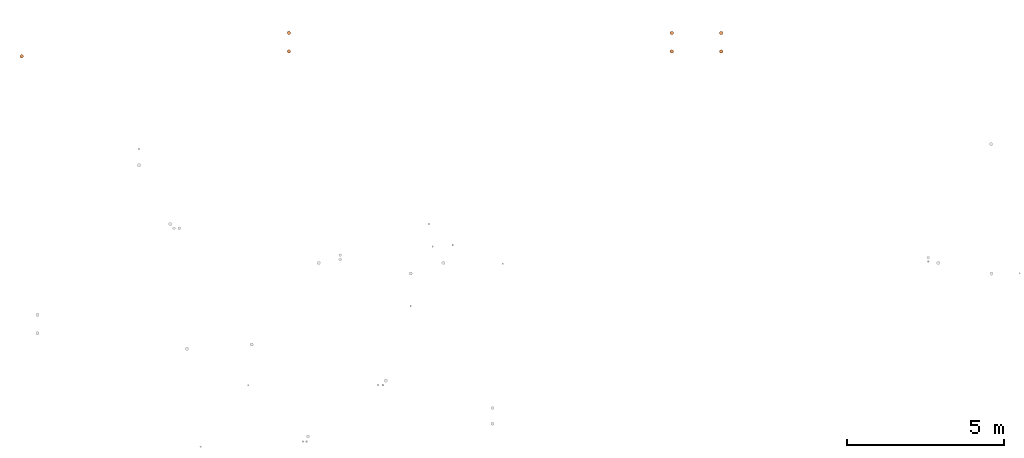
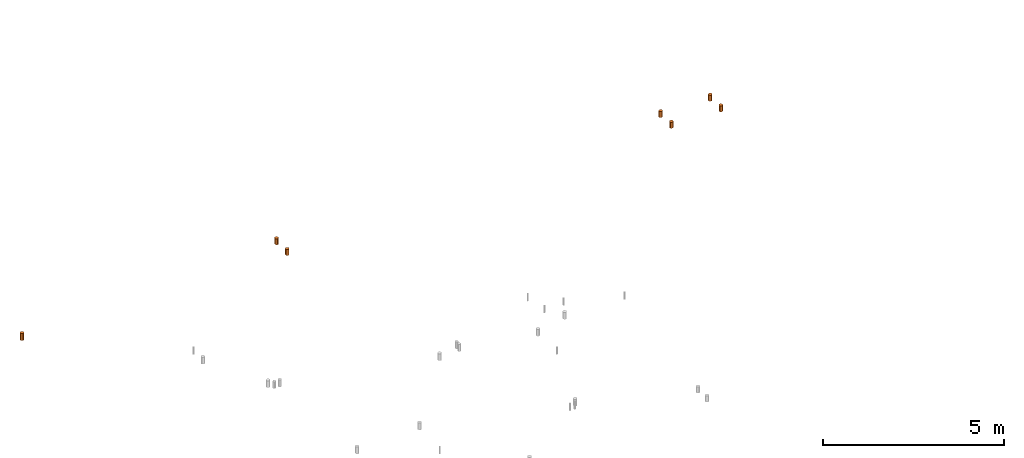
# One storey, part 7 of 16: 7 proxies.
"""IFC2X3 building model written with IfcOpenShell, lengths in centimetres."""

from ifc_helpers import new_model, entity, si_unit, converted_unit, derived_unit, direction, frame, origin, origin_2d_with_axis, place, context, subcontext, project, spatial, circle, extrude, source, transform, mapped, material, type_object, type_shapes, element, save


model = new_model("IFC2X3")

# Units and contexts
model_context = context("Model", 3, precision=0.001, world=origin(), true_north=direction((6.12303176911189e-17, 1.0)))
body_context = subcontext(model_context, "Body", "Model", "MODEL_VIEW")
ifc_project = project(units=[si_unit("LENGTHUNIT", "METRE", prefix="CENTI"), si_unit("AREAUNIT", "SQUARE_METRE"), si_unit("VOLUMEUNIT", "CUBIC_METRE"), converted_unit("PLANEANGLEUNIT", "DEGREE", entity("IfcRatioMeasure", 0.0174532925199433), si_unit("PLANEANGLEUNIT", "RADIAN"), dimensions=[0, 0, 0, 0, 0, 0, 0]), si_unit("MASSUNIT", "GRAM", prefix="KILO"), derived_unit("MASSDENSITYUNIT", [(si_unit("MASSUNIT", "GRAM", prefix="KILO"), 1), (si_unit("LENGTHUNIT", "METRE"), -3)]), si_unit("TIMEUNIT", "SECOND"), si_unit("FREQUENCYUNIT", "HERTZ"), si_unit("THERMODYNAMICTEMPERATUREUNIT", "DEGREE_CELSIUS"), derived_unit("THERMALTRANSMITTANCEUNIT", [(si_unit("MASSUNIT", "GRAM", prefix="KILO"), 1), (si_unit("THERMODYNAMICTEMPERATUREUNIT", "KELVIN"), -1), (si_unit("TIMEUNIT", "SECOND"), -3)]), derived_unit("VOLUMETRICFLOWRATEUNIT", [(si_unit("LENGTHUNIT", "METRE"), 3), (si_unit("TIMEUNIT", "SECOND"), -1)]), si_unit("ELECTRICCURRENTUNIT", "AMPERE"), si_unit("ELECTRICVOLTAGEUNIT", "VOLT"), si_unit("POWERUNIT", "WATT"), si_unit("FORCEUNIT", "NEWTON"), si_unit("ILLUMINANCEUNIT", "LUX"), si_unit("LUMINOUSFLUXUNIT", "LUMEN"), si_unit("LUMINOUSINTENSITYUNIT", "CANDELA"), derived_unit("USERDEFINED", [(si_unit("MASSUNIT", "GRAM", prefix="KILO"), -1), (si_unit("LENGTHUNIT", "METRE"), -2), (si_unit("TIMEUNIT", "SECOND"), 3), (si_unit("LUMINOUSFLUXUNIT", "LUMEN"), 1)]), derived_unit("LINEARVELOCITYUNIT", [(si_unit("LENGTHUNIT", "METRE"), 1), (si_unit("TIMEUNIT", "SECOND"), -1)]), si_unit("PRESSUREUNIT", "PASCAL"), derived_unit("USERDEFINED", [(si_unit("LENGTHUNIT", "METRE"), -2), (si_unit("MASSUNIT", "GRAM", prefix="KILO"), 1), (si_unit("TIMEUNIT", "SECOND"), -2)])], contexts=[model_context])

# Site, building, storey
site_placement = place(None, origin())
site = spatial("IfcSite", under=ifc_project, at=site_placement, Name="Default", CompositionType="ELEMENT")
building_placement = place(site_placement, origin())
building = spatial("IfcBuilding", under=site, at=building_placement, Name="CAGE 03", CompositionType="ELEMENT")
storey_placement = place(building_placement, frame((0.0, 0.0, 65.0)))
storey = spatial("IfcBuildingStorey", under=building, at=storey_placement, Name="Ac RDC", CompositionType="ELEMENT", Elevation=64.9999999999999)

# Proxies
ifc_material = material(Name="BBGO_Résa")
building_element_proxy_type_1 = type_object("IfcBuildingElementProxyType", Name="Ø110", PredefinedType="NOTDEFINED", material=ifc_material)
shared_shape_1 = source(origin(), body_context, "Body", "SweptSolid", [
    extrude(circle(Radius=5.5, at=origin_2d_with_axis()), frame((3212.70611734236, 5159.70027840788, 317.0)), (0.0, 0.0, 1.0), 22.9999999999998),
])
type_shapes(building_element_proxy_type_1, [shared_shape_1])
proxy_1_placement = place(storey_placement, frame((0.0, 0.0, -65.0)))
element("IfcBuildingElementProxy", 1, at=proxy_1_placement, inside=storey, type_object=building_element_proxy_type_1, material=ifc_material, Name="BBGO-Résa circ dalle:Ø110", ObjectType="Ø110", context=body_context, shape_type="MappedRepresentation", body=[
    mapped(shared_shape_1, transform((0.0, 0.0, 0.0), scale=1.0)),
])
building_element_proxy_type_2 = type_object("IfcBuildingElementProxyType", Name="Ø110", PredefinedType="NOTDEFINED", material=ifc_material)
shared_shape_2 = source(origin(), body_context, "Body", "SweptSolid", [
    extrude(circle(Radius=5.5, at=origin_2d_with_axis()), frame((4065.59082232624, 5175.42924962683, 295.0)), (0.0, 0.0, 1.0), 20.0),
])
type_shapes(building_element_proxy_type_2, [shared_shape_2])
proxy_2_placement = place(storey_placement, frame((0.0, 0.0, -65.0)))
element("IfcBuildingElementProxy", 2, at=proxy_2_placement, inside=storey, type_object=building_element_proxy_type_2, material=ifc_material, Name="BBGO-Résa circ dalle:Ø110", ObjectType="Ø110", context=body_context, shape_type="MappedRepresentation", body=[
    mapped(shared_shape_2, transform((0.0, 0.0, 0.0), scale=1.0)),
])
building_element_proxy_type_3 = type_object("IfcBuildingElementProxyType", Name="Ø110", PredefinedType="NOTDEFINED", material=ifc_material)
shared_shape_3 = source(origin(), body_context, "Body", "SweptSolid", [
    extrude(circle(Radius=5.5, at=origin_2d_with_axis()), frame((5287.59188832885, 5234.24765081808, 295.0)), (0.0, 0.0, 1.0), 20.0),
])
type_shapes(building_element_proxy_type_3, [shared_shape_3])
proxy_3_placement = place(storey_placement, frame((0.0, 0.0, -65.0)))
element("IfcBuildingElementProxy", 3, at=proxy_3_placement, inside=storey, type_object=building_element_proxy_type_3, material=ifc_material, Name="BBGO-Résa circ dalle:Ø110", ObjectType="Ø110", context=body_context, shape_type="MappedRepresentation", body=[
    mapped(shared_shape_3, transform((0.0, 0.0, 0.0), scale=1.0)),
])
building_element_proxy_type_4 = type_object("IfcBuildingElementProxyType", Name="Ø110", PredefinedType="NOTDEFINED", material=ifc_material)
shared_shape_4 = source(origin(), body_context, "Body", "SweptSolid", [
    extrude(circle(Radius=5.5, at=origin_2d_with_axis()), frame((5445.09368351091, 5234.24642234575, 295.0)), (0.0, 0.0, 1.0), 20.0),
])
type_shapes(building_element_proxy_type_4, [shared_shape_4])
proxy_4_placement = place(storey_placement, frame((0.0, 0.0, -65.0)))
element("IfcBuildingElementProxy", 4, at=proxy_4_placement, inside=storey, type_object=building_element_proxy_type_4, material=ifc_material, Name="BBGO-Résa circ dalle:Ø110", ObjectType="Ø110", context=body_context, shape_type="MappedRepresentation", body=[
    mapped(shared_shape_4, transform((0.0, 0.0, 0.0), scale=1.0)),
])
building_element_proxy_type_5 = type_object("IfcBuildingElementProxyType", Name="Ø110", PredefinedType="NOTDEFINED", material=ifc_material)
shared_shape_5 = source(origin(), body_context, "Body", "SweptSolid", [
    extrude(circle(Radius=5.5, at=origin_2d_with_axis()), frame((4065.59082232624, 5234.42924962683, 295.0)), (0.0, 0.0, 1.0), 20.0),
])
type_shapes(building_element_proxy_type_5, [shared_shape_5])
proxy_5_placement = place(storey_placement, frame((0.0, 0.0, -65.0)))
element("IfcBuildingElementProxy", 5, at=proxy_5_placement, inside=storey, type_object=building_element_proxy_type_5, material=ifc_material, Name="BBGO-Résa circ dalle:Ø110", ObjectType="Ø110", context=body_context, shape_type="MappedRepresentation", body=[
    mapped(shared_shape_5, transform((0.0, 0.0, 0.0), scale=1.0)),
])
building_element_proxy_type_6 = type_object("IfcBuildingElementProxyType", Name="Ø110", PredefinedType="NOTDEFINED", material=ifc_material)
shared_shape_6 = source(origin(), body_context, "Body", "SweptSolid", [
    extrude(circle(Radius=5.5, at=origin_2d_with_axis()), frame((5287.59188832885, 5175.24765081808, 295.0)), (0.0, 0.0, 1.0), 20.0),
])
type_shapes(building_element_proxy_type_6, [shared_shape_6])
proxy_6_placement = place(storey_placement, frame((0.0, 0.0, -65.0)))
element("IfcBuildingElementProxy", 6, at=proxy_6_placement, inside=storey, type_object=building_element_proxy_type_6, material=ifc_material, Name="BBGO-Résa circ dalle:Ø110", ObjectType="Ø110", context=body_context, shape_type="MappedRepresentation", body=[
    mapped(shared_shape_6, transform((0.0, 0.0, 0.0), scale=1.0)),
])
building_element_proxy_type_7 = type_object("IfcBuildingElementProxyType", Name="Ø110", PredefinedType="NOTDEFINED", material=ifc_material)
shared_shape_7 = source(origin(), body_context, "Body", "SweptSolid", [
    extrude(circle(Radius=5.5, at=origin_2d_with_axis()), frame((5445.09368351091, 5175.24642234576, 295.0)), (0.0, 0.0, 1.0), 20.0),
])
type_shapes(building_element_proxy_type_7, [shared_shape_7])
proxy_7_placement = place(storey_placement, frame((0.0, 0.0, -65.0)))
element("IfcBuildingElementProxy", 7, at=proxy_7_placement, inside=storey, type_object=building_element_proxy_type_7, material=ifc_material, Name="BBGO-Résa circ dalle:Ø110", ObjectType="Ø110", context=body_context, shape_type="MappedRepresentation", body=[
    mapped(shared_shape_7, transform((0.0, 0.0, 0.0), scale=1.0)),
])

save(model, "model.ifc")
